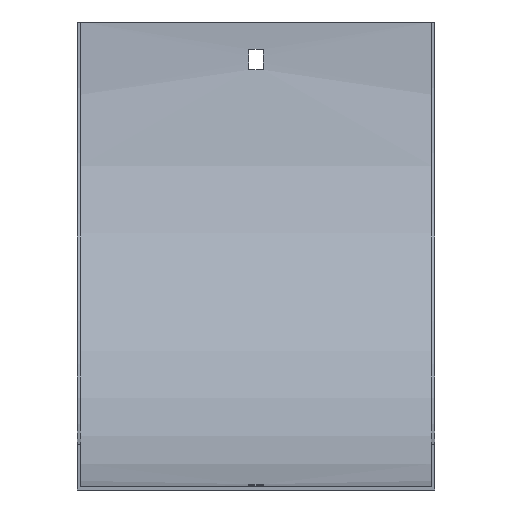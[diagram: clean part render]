
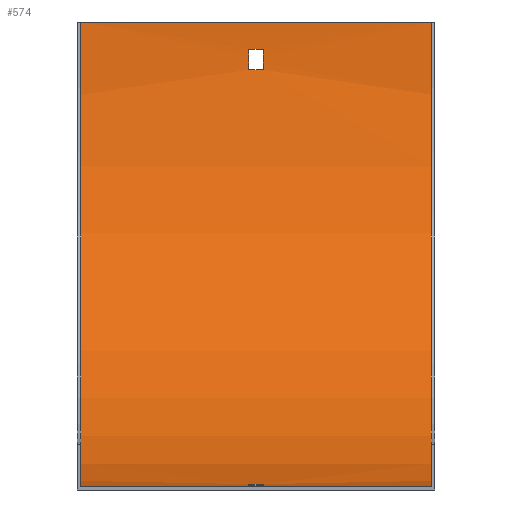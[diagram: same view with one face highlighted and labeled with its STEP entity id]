
A CAD part, front view. The second image highlights one B-rep face of the part: STEP entity #574.
In plain terms, the highlighted cylindrical face has radius 204 mm (diameter 408 mm), a partial arc.
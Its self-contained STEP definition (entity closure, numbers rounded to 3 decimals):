
#14 = DIRECTION ( 'NONE',  ( 1., 0., 0. ) ) ;
#18 = EDGE_CURVE ( 'NONE', #256, #97, #124, .T. ) ;
#21 = DIRECTION ( 'NONE',  ( 1., 0., 0. ) ) ;
#24 = CARTESIAN_POINT ( 'NONE',  ( -3.25, -205.5, 0. ) ) ;
#29 = CARTESIAN_POINT ( 'NONE',  ( 77., -205.5, -204. ) ) ;
#30 = EDGE_CURVE ( 'NONE', #97, #299, #457, .T. ) ;
#31 = DIRECTION ( 'NONE',  ( -1., 0., 0. ) ) ;
#39 = CARTESIAN_POINT ( 'NONE',  ( 78.5, -2.584, -21. ) ) ;
#41 = LINE ( 'NONE', #191, #431 ) ;
#45 = CIRCLE ( 'NONE', #56, 204. ) ;
#51 = CARTESIAN_POINT ( 'NONE',  ( 77., -205.5, 0. ) ) ;
#52 = VERTEX_POINT ( 'NONE', #217 ) ;
#56 = AXIS2_PLACEMENT_3D ( 'NONE', #259, #21, #448 ) ;
#58 = ORIENTED_EDGE ( 'NONE', *, *, #18, .F. ) ;
#64 = ORIENTED_EDGE ( 'NONE', *, *, #336, .T. ) ;
#74 = DIRECTION ( 'NONE',  ( 0., 0., 1. ) ) ;
#82 = CIRCLE ( 'NONE', #581, 204. ) ;
#85 = CARTESIAN_POINT ( 'NONE',  ( 3.25, -2.584, -21. ) ) ;
#97 = VERTEX_POINT ( 'NONE', #228 ) ;
#101 = VECTOR ( 'NONE', #315, 1000. ) ;
#103 = CARTESIAN_POINT ( 'NONE',  ( 77., -1.5, 0. ) ) ;
#106 = CARTESIAN_POINT ( 'NONE',  ( -3.25, -2.584, -21. ) ) ;
#111 = VECTOR ( 'NONE', #14, 1000. ) ;
#116 = CARTESIAN_POINT ( 'NONE',  ( 78.5, -1.853, -12. ) ) ;
#124 = LINE ( 'NONE', #116, #101 ) ;
#127 = CARTESIAN_POINT ( 'NONE',  ( 78.5, -205.5, 0. ) ) ;
#136 = CYLINDRICAL_SURFACE ( 'NONE', #497, 204. ) ;
#140 = DIRECTION ( 'NONE',  ( -1., 0., 0. ) ) ;
#141 = ORIENTED_EDGE ( 'NONE', *, *, #280, .T. ) ;
#155 = DIRECTION ( 'NONE',  ( -1., 0., 0. ) ) ;
#157 = EDGE_CURVE ( 'NONE', #299, #185, #176, .T. ) ;
#162 = DIRECTION ( 'NONE',  ( 1., 0., 0. ) ) ;
#165 = DIRECTION ( 'NONE',  ( 0., 0., 1. ) ) ;
#172 = FACE_BOUND ( 'NONE', #355, .T. ) ;
#176 = LINE ( 'NONE', #39, #557 ) ;
#184 = AXIS2_PLACEMENT_3D ( 'NONE', #51, #317, #271 ) ;
#185 = VERTEX_POINT ( 'NONE', #85 ) ;
#186 = FACE_OUTER_BOUND ( 'NONE', #276, .T. ) ;
#190 = EDGE_CURVE ( 'NONE', #436, #335, #41, .T. ) ;
#191 = CARTESIAN_POINT ( 'NONE',  ( 78.5, -193.5, -203.647 ) ) ;
#193 = CARTESIAN_POINT ( 'NONE',  ( -3.25, -193.5, -203.647 ) ) ;
#215 = AXIS2_PLACEMENT_3D ( 'NONE', #262, #162, #165 ) ;
#217 = CARTESIAN_POINT ( 'NONE',  ( -77., -1.5, 0. ) ) ;
#225 = AXIS2_PLACEMENT_3D ( 'NONE', #24, #31, #74 ) ;
#228 = CARTESIAN_POINT ( 'NONE',  ( -3.25, -1.853, -12. ) ) ;
#230 = EDGE_CURVE ( 'NONE', #374, #561, #507, .T. ) ;
#241 = CARTESIAN_POINT ( 'NONE',  ( -77., -205.5, -204. ) ) ;
#253 = DIRECTION ( 'NONE',  ( 1., 0., 0. ) ) ;
#256 = VERTEX_POINT ( 'NONE', #289 ) ;
#257 = CARTESIAN_POINT ( 'NONE',  ( 3.25, -184.5, -202.916 ) ) ;
#259 = CARTESIAN_POINT ( 'NONE',  ( 3.25, -205.5, 0. ) ) ;
#262 = CARTESIAN_POINT ( 'NONE',  ( -77., -205.5, 0. ) ) ;
#269 = CARTESIAN_POINT ( 'NONE',  ( -3.25, -184.5, -202.916 ) ) ;
#271 = DIRECTION ( 'NONE',  ( 0., 0., 1. ) ) ;
#276 = EDGE_LOOP ( 'NONE', ( #349, #582, #351, #401 ) ) ;
#280 = EDGE_CURVE ( 'NONE', #335, #575, #449, .T. ) ;
#283 = ORIENTED_EDGE ( 'NONE', *, *, #324, .T. ) ;
#289 = CARTESIAN_POINT ( 'NONE',  ( 3.25, -1.853, -12. ) ) ;
#294 = CARTESIAN_POINT ( 'NONE',  ( 3.25, -205.5, 0. ) ) ;
#297 = VERTEX_POINT ( 'NONE', #241 ) ;
#299 = VERTEX_POINT ( 'NONE', #106 ) ;
#310 = EDGE_CURVE ( 'NONE', #561, #52, #437, .T. ) ;
#315 = DIRECTION ( 'NONE',  ( -1., 0., 0. ) ) ;
#317 = DIRECTION ( 'NONE',  ( 1., 0., 0. ) ) ;
#319 = DIRECTION ( 'NONE',  ( 0., 0., 1. ) ) ;
#324 = EDGE_CURVE ( 'NONE', #429, #436, #82, .T. ) ;
#335 = VERTEX_POINT ( 'NONE', #193 ) ;
#336 = EDGE_CURVE ( 'NONE', #575, #429, #570, .T. ) ;
#339 = CARTESIAN_POINT ( 'NONE',  ( -3.25, -205.5, 0. ) ) ;
#348 = DIRECTION ( 'NONE',  ( 0., 0., 1. ) ) ;
#349 = ORIENTED_EDGE ( 'NONE', *, *, #386, .F. ) ;
#351 = ORIENTED_EDGE ( 'NONE', *, *, #230, .T. ) ;
#355 = EDGE_LOOP ( 'NONE', ( #525, #58, #369, #592 ) ) ;
#369 = ORIENTED_EDGE ( 'NONE', *, *, #464, .F. ) ;
#374 = VERTEX_POINT ( 'NONE', #29 ) ;
#386 = EDGE_CURVE ( 'NONE', #297, #52, #529, .T. ) ;
#387 = DIRECTION ( 'NONE',  ( 0., 0., -1. ) ) ;
#401 = ORIENTED_EDGE ( 'NONE', *, *, #310, .T. ) ;
#402 = EDGE_CURVE ( 'NONE', #374, #297, #543, .T. ) ;
#412 = FACE_BOUND ( 'NONE', #567, .T. ) ;
#420 = AXIS2_PLACEMENT_3D ( 'NONE', #339, #253, #387 ) ;
#429 = VERTEX_POINT ( 'NONE', #257 ) ;
#431 = VECTOR ( 'NONE', #140, 1000. ) ;
#433 = CARTESIAN_POINT ( 'NONE',  ( 78.5, -184.5, -202.916 ) ) ;
#436 = VERTEX_POINT ( 'NONE', #596 ) ;
#437 = LINE ( 'NONE', #103, #480 ) ;
#448 = DIRECTION ( 'NONE',  ( 0., 0., -1. ) ) ;
#449 = CIRCLE ( 'NONE', #420, 204. ) ;
#452 = CARTESIAN_POINT ( 'NONE',  ( 77., -205.5, -204. ) ) ;
#457 = CIRCLE ( 'NONE', #225, 204. ) ;
#464 = EDGE_CURVE ( 'NONE', #185, #256, #45, .T. ) ;
#480 = VECTOR ( 'NONE', #524, 1000. ) ;
#497 = AXIS2_PLACEMENT_3D ( 'NONE', #127, #516, #319 ) ;
#504 = CARTESIAN_POINT ( 'NONE',  ( 77., -1.5, 0. ) ) ;
#507 = CIRCLE ( 'NONE', #184, 204. ) ;
#516 = DIRECTION ( 'NONE',  ( -1., 0., 0. ) ) ;
#524 = DIRECTION ( 'NONE',  ( -1., 0., 0. ) ) ;
#525 = ORIENTED_EDGE ( 'NONE', *, *, #30, .F. ) ;
#526 = VECTOR ( 'NONE', #548, 1000. ) ;
#529 = CIRCLE ( 'NONE', #215, 204. ) ;
#543 = LINE ( 'NONE', #452, #526 ) ;
#548 = DIRECTION ( 'NONE',  ( -1., 0., 0. ) ) ;
#549 = ORIENTED_EDGE ( 'NONE', *, *, #190, .T. ) ;
#557 = VECTOR ( 'NONE', #566, 1000. ) ;
#561 = VERTEX_POINT ( 'NONE', #504 ) ;
#566 = DIRECTION ( 'NONE',  ( 1., 0., 0. ) ) ;
#567 = EDGE_LOOP ( 'NONE', ( #549, #141, #64, #283 ) ) ;
#570 = LINE ( 'NONE', #433, #111 ) ;
#574 = ADVANCED_FACE ( 'NONE', ( #172, #186, #412 ), #136, .F. ) ;
#575 = VERTEX_POINT ( 'NONE', #269 ) ;
#581 = AXIS2_PLACEMENT_3D ( 'NONE', #294, #155, #348 ) ;
#582 = ORIENTED_EDGE ( 'NONE', *, *, #402, .F. ) ;
#592 = ORIENTED_EDGE ( 'NONE', *, *, #157, .F. ) ;
#596 = CARTESIAN_POINT ( 'NONE',  ( 3.25, -193.5, -203.647 ) ) ;
